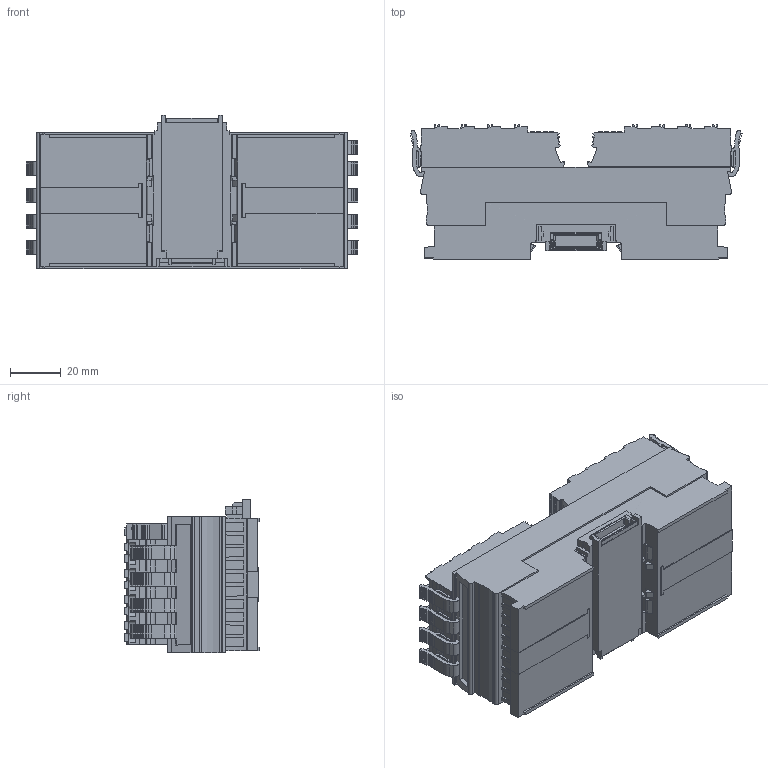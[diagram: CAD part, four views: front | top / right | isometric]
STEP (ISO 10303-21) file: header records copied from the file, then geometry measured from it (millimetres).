
FILE_DESCRIPTION((''),'2;1');
FILE_NAME('CU_REM-11152','2017-05-11T',('dkendric'),(''),'CREO PARAMETRIC BY PTC INC, 2015380','CREO PARAMETRIC BY PTC INC, 2015380','');
FILE_SCHEMA(('CONFIG_CONTROL_DESIGN'));
Length unit declared in the file: inch
Products named in the file (1): CU_REM-11152
Bounding box: 130.67 x 52.9 x 60.4 mm (x, y, z)
Volume: 282134 mm3; surface area: 61613.8 mm2
Topology: 1 solids, 1 shells, 4819 faces, 13661 edges, 9196 vertices
Faces by surface type: plane 3239, cylinder 1580
Entity records: 158792 total; most frequent: CARTESIAN_POINT 34951, ORIENTED_EDGE 27322, DIRECTION 23327, EDGE_CURVE 13661, VECTOR 9917, LINE 9917, VERTEX_POINT 9196, AXIS2_PLACEMENT_3D 6705
